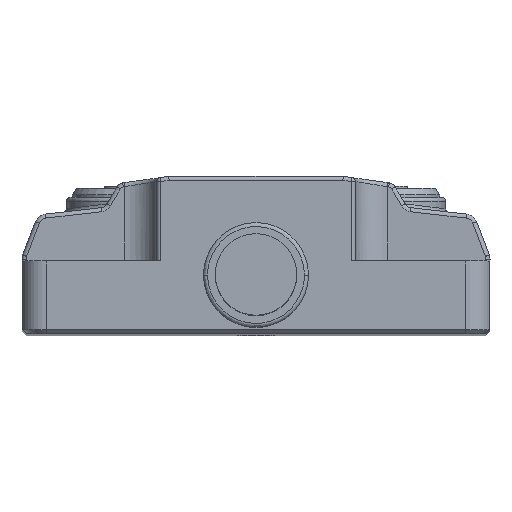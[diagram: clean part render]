
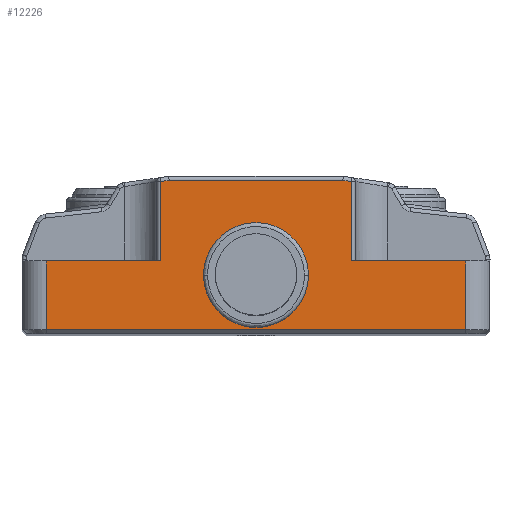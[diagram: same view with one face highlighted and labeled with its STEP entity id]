
A CAD part, top view. The second image highlights one B-rep face of the part: STEP entity #12226.
In plain terms, the highlighted planar face has unit normal (0, 0, 1).
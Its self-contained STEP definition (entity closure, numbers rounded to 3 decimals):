
#781 = LINE ( 'NONE', #23338, #13331 ) ;
#1343 = DIRECTION ( 'NONE',  ( 1., 0., 0. ) ) ;
#3209 = ORIENTED_EDGE ( 'NONE', *, *, #27893, .T. ) ;
#4028 = EDGE_CURVE ( 'NONE', #39884, #15612, #8347, .T. ) ;
#4843 = LINE ( 'NONE', #32209, #75829 ) ;
#5892 = DIRECTION ( 'NONE',  ( -0.99, -0.139, 0. ) ) ;
#5896 = DIRECTION ( 'NONE',  ( -0.99, 0.139, 0. ) ) ;
#6018 = LINE ( 'NONE', #68698, #41605 ) ;
#8347 = CIRCLE ( 'NONE', #20233, 6.5 ) ;
#8805 = ORIENTED_EDGE ( 'NONE', *, *, #50439, .T. ) ;
#9086 = CARTESIAN_POINT ( 'NONE',  ( -27.04, 0.13, 153. ) ) ;
#10815 = VERTEX_POINT ( 'NONE', #55789 ) ;
#11298 = LINE ( 'NONE', #85116, #27011 ) ;
#12226 = ADVANCED_FACE ( 'NONE', ( #85439, #31172 ), #69719, .T. ) ;
#13040 = ORIENTED_EDGE ( 'NONE', *, *, #28475, .T. ) ;
#13260 = ORIENTED_EDGE ( 'NONE', *, *, #48449, .T. ) ;
#13331 = VECTOR ( 'NONE', #38574, 1000. ) ;
#13455 = VERTEX_POINT ( 'NONE', #19924 ) ;
#13554 = CARTESIAN_POINT ( 'NONE',  ( 26., 0.5, 153. ) ) ;
#13914 = ORIENTED_EDGE ( 'NONE', *, *, #47927, .T. ) ;
#15612 = VERTEX_POINT ( 'NONE', #74941 ) ;
#17464 = EDGE_CURVE ( 'NONE', #10815, #56980, #21049, .T. ) ;
#18665 = CARTESIAN_POINT ( 'NONE',  ( 26., 9., 153. ) ) ;
#19669 = CARTESIAN_POINT ( 'NONE',  ( -26., 9., 153. ) ) ;
#19924 = CARTESIAN_POINT ( 'NONE',  ( 10.773, 19., 153. ) ) ;
#20233 = AXIS2_PLACEMENT_3D ( 'NONE', #86550, #53857, #46606 ) ;
#21049 = LINE ( 'NONE', #66351, #45121 ) ;
#21806 = AXIS2_PLACEMENT_3D ( 'NONE', #9086, #48802, #42438 ) ;
#23198 = VERTEX_POINT ( 'NONE', #35851 ) ;
#23338 = CARTESIAN_POINT ( 'NONE',  ( 0., 19., 153. ) ) ;
#25140 = VERTEX_POINT ( 'NONE', #73602 ) ;
#25572 = VERTEX_POINT ( 'NONE', #18665 ) ;
#26356 = CARTESIAN_POINT ( 'NONE',  ( 11.8, 9.75, 153. ) ) ;
#27011 = VECTOR ( 'NONE', #58552, 1000. ) ;
#27893 = EDGE_CURVE ( 'NONE', #25140, #83819, #47001, .T. ) ;
#28475 = EDGE_CURVE ( 'NONE', #51742, #44200, #43792, .T. ) ;
#29554 = VECTOR ( 'NONE', #59163, 1000. ) ;
#29617 = ORIENTED_EDGE ( 'NONE', *, *, #4028, .T. ) ;
#30010 = EDGE_LOOP ( 'NONE', ( #30037, #56630, #31518, #13040, #38487, #13260, #64847, #13914, #3209, #44612 ) ) ;
#30037 = ORIENTED_EDGE ( 'NONE', *, *, #17464, .T. ) ;
#31172 = FACE_BOUND ( 'NONE', #52330, .T. ) ;
#31242 = AXIS2_PLACEMENT_3D ( 'NONE', #66878, #81532, #60536 ) ;
#31518 = ORIENTED_EDGE ( 'NONE', *, *, #85627, .F. ) ;
#32209 = CARTESIAN_POINT ( 'NONE',  ( -10.773, 19., 153. ) ) ;
#32906 = CARTESIAN_POINT ( 'NONE',  ( -26., 9.75, 153. ) ) ;
#35677 = CARTESIAN_POINT ( 'NONE',  ( 11.8, 18.856, 153. ) ) ;
#35851 = CARTESIAN_POINT ( 'NONE',  ( -11.8, 18.856, 153. ) ) ;
#37963 = VECTOR ( 'NONE', #5896, 1000. ) ;
#38487 = ORIENTED_EDGE ( 'NONE', *, *, #42743, .T. ) ;
#38574 = DIRECTION ( 'NONE',  ( -1., 0., 0. ) ) ;
#38682 = CARTESIAN_POINT ( 'NONE',  ( 0., 13.75, 153. ) ) ;
#39884 = VERTEX_POINT ( 'NONE', #38682 ) ;
#41479 = VECTOR ( 'NONE', #1343, 1000. ) ;
#41605 = VECTOR ( 'NONE', #75450, 1000. ) ;
#42066 = CIRCLE ( 'NONE', #31242, 6.5 ) ;
#42160 = LINE ( 'NONE', #64516, #37963 ) ;
#42438 = DIRECTION ( 'NONE',  ( 1., 0., 0. ) ) ;
#42743 = EDGE_CURVE ( 'NONE', #44200, #13455, #42160, .T. ) ;
#43792 = LINE ( 'NONE', #26356, #59434 ) ;
#44200 = VERTEX_POINT ( 'NONE', #35677 ) ;
#44612 = ORIENTED_EDGE ( 'NONE', *, *, #64565, .T. ) ;
#44843 = CARTESIAN_POINT ( 'NONE',  ( -10.773, 19., 153. ) ) ;
#45121 = VECTOR ( 'NONE', #66919, 1000. ) ;
#46606 = DIRECTION ( 'NONE',  ( 0., -1., 0. ) ) ;
#47001 = LINE ( 'NONE', #66634, #49065 ) ;
#47927 = EDGE_CURVE ( 'NONE', #23198, #25140, #11298, .T. ) ;
#48449 = EDGE_CURVE ( 'NONE', #13455, #54996, #781, .T. ) ;
#48802 = DIRECTION ( 'NONE',  ( 0., 0., 1. ) ) ;
#49065 = VECTOR ( 'NONE', #67797, 1000. ) ;
#49287 = EDGE_CURVE ( 'NONE', #54996, #23198, #4843, .T. ) ;
#50439 = EDGE_CURVE ( 'NONE', #15612, #39884, #42066, .T. ) ;
#51742 = VERTEX_POINT ( 'NONE', #82128 ) ;
#52330 = EDGE_LOOP ( 'NONE', ( #8805, #29617 ) ) ;
#52639 = DIRECTION ( 'NONE',  ( 0., 1., 0. ) ) ;
#53857 = DIRECTION ( 'NONE',  ( 0., 0., -1. ) ) ;
#54996 = VERTEX_POINT ( 'NONE', #44843 ) ;
#55789 = CARTESIAN_POINT ( 'NONE',  ( -26., 0.5, 153. ) ) ;
#56630 = ORIENTED_EDGE ( 'NONE', *, *, #76357, .T. ) ;
#56980 = VERTEX_POINT ( 'NONE', #13554 ) ;
#58552 = DIRECTION ( 'NONE',  ( 0., -1., 0. ) ) ;
#59163 = DIRECTION ( 'NONE',  ( 0., -1., 0. ) ) ;
#59434 = VECTOR ( 'NONE', #52639, 1000. ) ;
#60536 = DIRECTION ( 'NONE',  ( 0., -1., 0. ) ) ;
#64516 = CARTESIAN_POINT ( 'NONE',  ( 11.8, 18.856, 153. ) ) ;
#64565 = EDGE_CURVE ( 'NONE', #83819, #10815, #75407, .T. ) ;
#64847 = ORIENTED_EDGE ( 'NONE', *, *, #49287, .T. ) ;
#66351 = CARTESIAN_POINT ( 'NONE',  ( 0., 0.5, 153. ) ) ;
#66634 = CARTESIAN_POINT ( 'NONE',  ( 0., 9., 153. ) ) ;
#66878 = CARTESIAN_POINT ( 'NONE',  ( 0., 7.25, 153. ) ) ;
#66919 = DIRECTION ( 'NONE',  ( 1., 0., 0. ) ) ;
#67229 = CARTESIAN_POINT ( 'NONE',  ( 20.4, 9., 153. ) ) ;
#67797 = DIRECTION ( 'NONE',  ( -1., 0., 0. ) ) ;
#68698 = CARTESIAN_POINT ( 'NONE',  ( 26., 4.75, 153. ) ) ;
#69719 = PLANE ( 'NONE',  #21806 ) ;
#73602 = CARTESIAN_POINT ( 'NONE',  ( -11.8, 9., 153. ) ) ;
#74941 = CARTESIAN_POINT ( 'NONE',  ( 0., 0.75, 153. ) ) ;
#75407 = LINE ( 'NONE', #32906, #29554 ) ;
#75450 = DIRECTION ( 'NONE',  ( 0., 1., 0. ) ) ;
#75829 = VECTOR ( 'NONE', #5892, 1000. ) ;
#76357 = EDGE_CURVE ( 'NONE', #56980, #25572, #6018, .T. ) ;
#77898 = LINE ( 'NONE', #67229, #41479 ) ;
#81532 = DIRECTION ( 'NONE',  ( 0., 0., -1. ) ) ;
#82128 = CARTESIAN_POINT ( 'NONE',  ( 11.8, 9., 153. ) ) ;
#83819 = VERTEX_POINT ( 'NONE', #19669 ) ;
#85116 = CARTESIAN_POINT ( 'NONE',  ( -11.8, 9.75, 153. ) ) ;
#85439 = FACE_OUTER_BOUND ( 'NONE', #30010, .T. ) ;
#85627 = EDGE_CURVE ( 'NONE', #51742, #25572, #77898, .T. ) ;
#86550 = CARTESIAN_POINT ( 'NONE',  ( 0., 7.25, 153. ) ) ;
